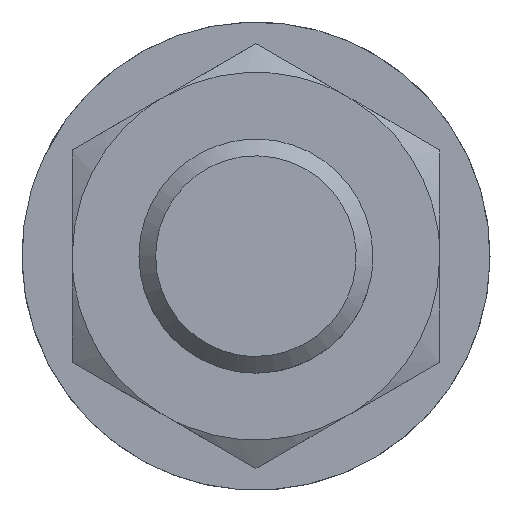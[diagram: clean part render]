
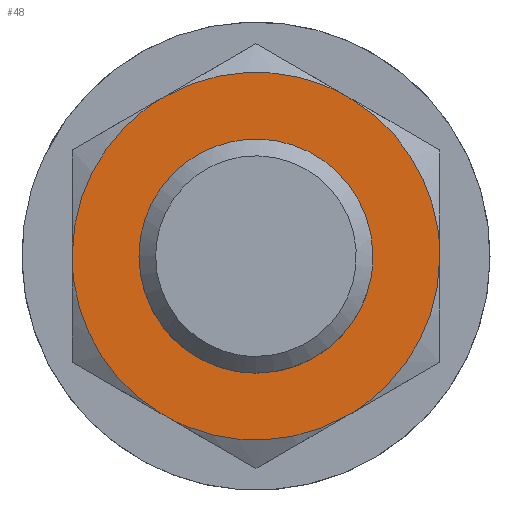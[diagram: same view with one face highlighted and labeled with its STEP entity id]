
A CAD part, left-side view. The second image highlights one B-rep face of the part: STEP entity #48.
In plain terms, the highlighted planar face has unit normal (-1, 0, 0).
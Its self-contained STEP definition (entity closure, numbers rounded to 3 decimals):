
#39=FACE_BOUND('',#135,.T.);
#48=ADVANCED_FACE('',(#90,#39),#650,.T.);
#90=FACE_OUTER_BOUND('',#134,.T.);
#134=EDGE_LOOP('',(#198,#199,#200,#201,#202,#203));
#135=EDGE_LOOP('',(#204,#205));
#198=ORIENTED_EDGE('',*,*,#397,.F.);
#199=ORIENTED_EDGE('',*,*,#399,.F.);
#200=ORIENTED_EDGE('',*,*,#400,.F.);
#201=ORIENTED_EDGE('',*,*,#398,.F.);
#202=ORIENTED_EDGE('',*,*,#396,.F.);
#203=ORIENTED_EDGE('',*,*,#395,.F.);
#204=ORIENTED_EDGE('',*,*,#385,.F.);
#205=ORIENTED_EDGE('',*,*,#383,.F.);
#383=EDGE_CURVE('',#596,#586,#507,.T.);
#385=EDGE_CURVE('',#586,#596,#508,.T.);
#395=EDGE_CURVE('',#590,#591,#516,.T.);
#396=EDGE_CURVE('',#591,#595,#517,.T.);
#397=EDGE_CURVE('',#592,#590,#518,.T.);
#398=EDGE_CURVE('',#595,#594,#519,.T.);
#399=EDGE_CURVE('',#593,#592,#520,.T.);
#400=EDGE_CURVE('',#594,#593,#521,.T.);
#507=(
BOUNDED_CURVE()
B_SPLINE_CURVE(2,(#1153,#1154,#1155,#1156,#1157),.UNSPECIFIED.,.F.,.F.)
B_SPLINE_CURVE_WITH_KNOTS((3,2,3),(21.991,32.987,43.982),
 .UNSPECIFIED.)
CURVE()
GEOMETRIC_REPRESENTATION_ITEM()
RATIONAL_B_SPLINE_CURVE((1.,0.707,1.,0.707,1.))
REPRESENTATION_ITEM('')
);
#508=(
BOUNDED_CURVE()
B_SPLINE_CURVE(2,(#1160,#1161,#1162,#1163,#1164),.UNSPECIFIED.,.F.,.F.)
B_SPLINE_CURVE_WITH_KNOTS((3,2,3),(0.,10.996,21.991),
 .UNSPECIFIED.)
CURVE()
GEOMETRIC_REPRESENTATION_ITEM()
RATIONAL_B_SPLINE_CURVE((1.,0.707,1.,0.707,1.))
REPRESENTATION_ITEM('')
);
#516=(
BOUNDED_CURVE()
B_SPLINE_CURVE(2,(#1202,#1203,#1204),.UNSPECIFIED.,.F.,.F.)
B_SPLINE_CURVE_WITH_KNOTS((3,3),(0.,11.519),.UNSPECIFIED.)
CURVE()
GEOMETRIC_REPRESENTATION_ITEM()
RATIONAL_B_SPLINE_CURVE((1.,0.866,1.))
REPRESENTATION_ITEM('')
);
#517=(
BOUNDED_CURVE()
B_SPLINE_CURVE(2,(#1205,#1206,#1207),.UNSPECIFIED.,.F.,.F.)
B_SPLINE_CURVE_WITH_KNOTS((3,3),(0.,11.519),.UNSPECIFIED.)
CURVE()
GEOMETRIC_REPRESENTATION_ITEM()
RATIONAL_B_SPLINE_CURVE((1.,0.866,1.))
REPRESENTATION_ITEM('')
);
#518=(
BOUNDED_CURVE()
B_SPLINE_CURVE(2,(#1208,#1209,#1210),.UNSPECIFIED.,.F.,.F.)
B_SPLINE_CURVE_WITH_KNOTS((3,3),(0.,11.519),.UNSPECIFIED.)
CURVE()
GEOMETRIC_REPRESENTATION_ITEM()
RATIONAL_B_SPLINE_CURVE((1.,0.866,1.))
REPRESENTATION_ITEM('')
);
#519=(
BOUNDED_CURVE()
B_SPLINE_CURVE(2,(#1211,#1212,#1213),.UNSPECIFIED.,.F.,.F.)
B_SPLINE_CURVE_WITH_KNOTS((3,3),(0.,11.519),.UNSPECIFIED.)
CURVE()
GEOMETRIC_REPRESENTATION_ITEM()
RATIONAL_B_SPLINE_CURVE((1.,0.866,1.))
REPRESENTATION_ITEM('')
);
#520=(
BOUNDED_CURVE()
B_SPLINE_CURVE(2,(#1214,#1215,#1216),.UNSPECIFIED.,.F.,.F.)
B_SPLINE_CURVE_WITH_KNOTS((3,3),(0.,11.519),.UNSPECIFIED.)
CURVE()
GEOMETRIC_REPRESENTATION_ITEM()
RATIONAL_B_SPLINE_CURVE((1.,0.866,1.))
REPRESENTATION_ITEM('')
);
#521=(
BOUNDED_CURVE()
B_SPLINE_CURVE(2,(#1217,#1218,#1219),.UNSPECIFIED.,.F.,.F.)
B_SPLINE_CURVE_WITH_KNOTS((3,3),(0.,11.519),.UNSPECIFIED.)
CURVE()
GEOMETRIC_REPRESENTATION_ITEM()
RATIONAL_B_SPLINE_CURVE((1.,0.866,1.))
REPRESENTATION_ITEM('')
);
#586=VERTEX_POINT('',#1121);
#590=VERTEX_POINT('',#1125);
#591=VERTEX_POINT('',#1126);
#592=VERTEX_POINT('',#1127);
#593=VERTEX_POINT('',#1128);
#594=VERTEX_POINT('',#1129);
#595=VERTEX_POINT('',#1130);
#596=VERTEX_POINT('',#1131);
#650=PLANE('',#764);
#764=AXIS2_PLACEMENT_3D('',#878,#790,$);
#790=DIRECTION('',(-1.,0.,0.));
#878=CARTESIAN_POINT('',(22.167,-13.32,-15.362));
#1121=CARTESIAN_POINT('',(22.167,7.,0.));
#1125=CARTESIAN_POINT('',(22.167,-5.5,-9.526));
#1126=CARTESIAN_POINT('',(22.167,5.5,-9.526));
#1127=CARTESIAN_POINT('',(22.167,-11.,0.));
#1128=CARTESIAN_POINT('',(22.167,-5.5,9.526));
#1129=CARTESIAN_POINT('',(22.167,5.5,9.526));
#1130=CARTESIAN_POINT('',(22.167,11.,0.));
#1131=CARTESIAN_POINT('',(22.167,-7.,0.));
#1153=CARTESIAN_POINT('',(22.167,-7.,0.));
#1154=CARTESIAN_POINT('',(22.167,-7.,7.));
#1155=CARTESIAN_POINT('',(22.167,0.,7.));
#1156=CARTESIAN_POINT('',(22.167,7.,7.));
#1157=CARTESIAN_POINT('',(22.167,7.,0.));
#1160=CARTESIAN_POINT('',(22.167,7.,0.));
#1161=CARTESIAN_POINT('',(22.167,7.,-7.));
#1162=CARTESIAN_POINT('',(22.167,0.,-7.));
#1163=CARTESIAN_POINT('',(22.167,-7.,-7.));
#1164=CARTESIAN_POINT('',(22.167,-7.,0.));
#1202=CARTESIAN_POINT('',(22.167,-5.5,-9.526));
#1203=CARTESIAN_POINT('',(22.167,0.,-12.702));
#1204=CARTESIAN_POINT('',(22.167,5.5,-9.526));
#1205=CARTESIAN_POINT('',(22.167,5.5,-9.526));
#1206=CARTESIAN_POINT('',(22.167,11.,-6.351));
#1207=CARTESIAN_POINT('',(22.167,11.,0.));
#1208=CARTESIAN_POINT('',(22.167,-11.,0.));
#1209=CARTESIAN_POINT('',(22.167,-11.,-6.351));
#1210=CARTESIAN_POINT('',(22.167,-5.5,-9.526));
#1211=CARTESIAN_POINT('',(22.167,11.,0.));
#1212=CARTESIAN_POINT('',(22.167,11.,6.351));
#1213=CARTESIAN_POINT('',(22.167,5.5,9.526));
#1214=CARTESIAN_POINT('',(22.167,-5.5,9.526));
#1215=CARTESIAN_POINT('',(22.167,-11.,6.351));
#1216=CARTESIAN_POINT('',(22.167,-11.,0.));
#1217=CARTESIAN_POINT('',(22.167,5.5,9.526));
#1218=CARTESIAN_POINT('',(22.167,0.,12.702));
#1219=CARTESIAN_POINT('',(22.167,-5.5,9.526));
